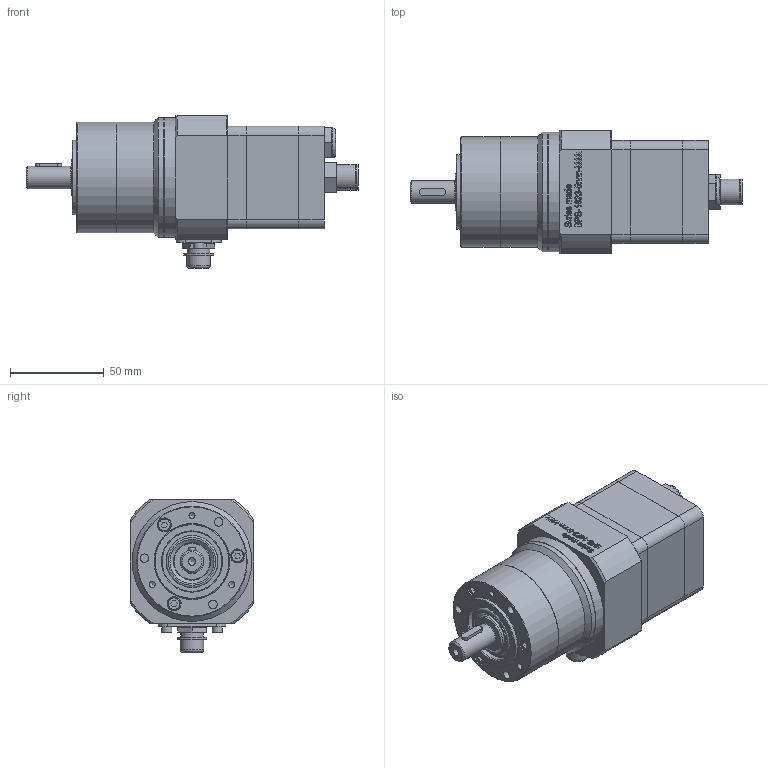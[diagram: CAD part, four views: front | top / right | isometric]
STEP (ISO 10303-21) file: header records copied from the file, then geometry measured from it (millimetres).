
FILE_DESCRIPTION(/* description */ (''),/* implementation_level */ '2;1');
FILE_NAME(/* name */ 'G:\02 CAD Dateien\02 - CAD Schrittmotoren BPS\01 - Standart Produkte\BPS 1620-23\Verkaufsunterlagen\STEP ab JULI 2017\500-1623-310 Schrittmotor BPS-1623-EC-MX.stp',/* time_stamp */ '2017-12-20T12:03:57+01:00',/* author */ ('RSc'),/* organization */ (''),/* preprocessor_version */ 'ST-DEVELOPER v16.1',/* originating_system */ 'Autodesk Inventor 2016',/* authorisation */ '');
FILE_SCHEMA (('AUTOMOTIVE_DESIGN { 1 0 10303 214 3 1 1 }'));
Length unit declared in the file: millimetre
Products named in the file (1): 500-1623-310 Schrittmotor BPS-1623-EC-MX
Bounding box: 177.4 x 66 x 81.5 mm (x, y, z)
Volume: 423617.5 mm3; surface area: 52138.2 mm2
Topology: 2 solids, 24 shells, 832 faces, 2064 edges, 1363 vertices
Faces by surface type: plane 439, bspline 217, cylinder 129, cone 32, torus 15
Full cylindrical faces by diameter (mm): 0.6 x4, 1 x10, 3 x5, 3.242 x3, 3.3 x6, 4 x3, 4.134 x1, 4.5 x6, 5.5 x4, 7 x3, 7.5 x3, 8 x9, 8.4 x1, 8.566 x4, 9.4 x1, 11 x1, 12 x3, 12.2 x1, 12.5 x1, 12.6 x1, 13.6 x2, 16 x2, 20 x1, 25.4 x1, 32 x1, 40 x1, 59 x2, 64 x2
Entity records: 26191 total; most frequent: CARTESIAN_POINT 7667, ORIENTED_EDGE 3822, DIRECTION 2932, EDGE_CURVE 1906, VERTEX_POINT 1324, LINE 1130, VECTOR 1130, EDGE_LOOP 1076
